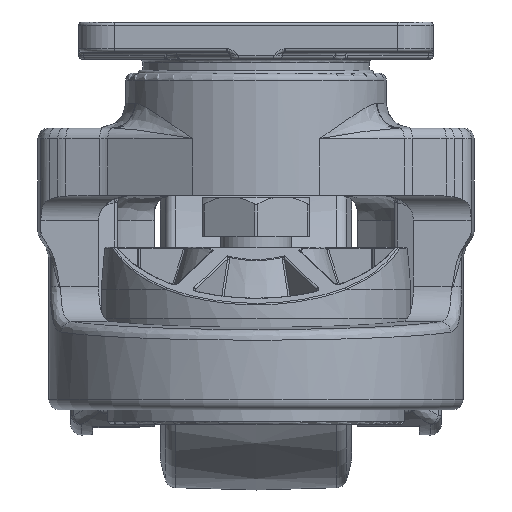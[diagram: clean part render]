
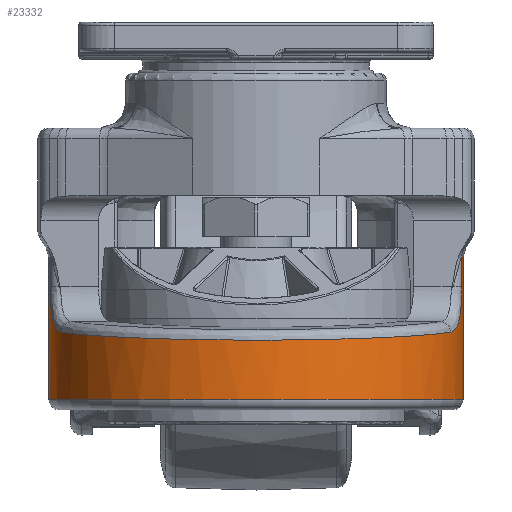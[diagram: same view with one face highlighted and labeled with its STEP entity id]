
A CAD part, left-side view. The second image highlights one B-rep face of the part: STEP entity #23332.
In plain terms, the highlighted cylindrical face has radius 58.5 mm (diameter 117 mm), a partial arc.
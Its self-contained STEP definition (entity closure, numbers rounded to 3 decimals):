
#21677=CARTESIAN_POINT('',(-37.701,-57.349,6.915));
#21678=VERTEX_POINT('',#21677);
#22481=CARTESIAN_POINT('',(-37.701,57.349,6.915));
#22482=VERTEX_POINT('',#22481);
#22529=CARTESIAN_POINT('',(-37.701,57.349,40.3));
#22530=VERTEX_POINT('',#22529);
#22538=CARTESIAN_POINT('',(-37.701,57.349,6.915));
#22539=DIRECTION('',(0.0,0.0,1.0));
#22540=VECTOR('',#22539,33.385);
#22541=LINE('',#22538,#22540);
#22542=EDGE_CURVE('',#22482,#22530,#22541,.T.);
#22763=CARTESIAN_POINT('',(-56.628,-58.033,6.915));
#22764=VERTEX_POINT('',#22763);
#22772=CARTESIAN_POINT('',(-49.25,0.0,6.915));
#22773=DIRECTION('',(0.0,0.0,1.));
#22774=DIRECTION('',(0.036,-0.999,0.0));
#22775=AXIS2_PLACEMENT_3D('',#22772,#22773,#22774);
#22776=CIRCLE('',#22775,58.5);
#22777=EDGE_CURVE('',#22764,#21678,#22776,.T.);
#22926=CARTESIAN_POINT('',(-56.628,58.033,6.915));
#22927=VERTEX_POINT('',#22926);
#22928=CARTESIAN_POINT('',(-49.25,0.0,6.915));
#22929=DIRECTION('',(0.0,0.0,1.0));
#22930=DIRECTION('',(0.036,0.999,0.0));
#22931=AXIS2_PLACEMENT_3D('',#22928,#22929,#22930);
#22932=CIRCLE('',#22931,58.5);
#22933=EDGE_CURVE('',#22482,#22927,#22932,.T.);
#23155=CARTESIAN_POINT('',(-56.628,58.033,-1.299));
#23156=VERTEX_POINT('',#23155);
#23164=CARTESIAN_POINT('',(-69.485,54.889,-14.275));
#23165=VERTEX_POINT('',#23164);
#23166=CARTESIAN_POINT('',(-56.628,58.033,-1.299));
#23167=CARTESIAN_POINT('',(-56.628,58.033,-3.222));
#23168=CARTESIAN_POINT('',(-57.094,57.978,-5.156));
#23169=CARTESIAN_POINT('',(-57.969,57.847,-6.902));
#23170=CARTESIAN_POINT('',(-58.221,57.809,-7.405));
#23171=CARTESIAN_POINT('',(-58.506,57.764,-7.892));
#23172=CARTESIAN_POINT('',(-58.824,57.711,-8.358));
#23173=CARTESIAN_POINT('',(-59.966,57.522,-10.034));
#23174=CARTESIAN_POINT('',(-61.512,57.229,-11.44));
#23175=CARTESIAN_POINT('',(-63.281,56.792,-12.447));
#23176=CARTESIAN_POINT('',(-64.458,56.502,-13.117));
#23177=CARTESIAN_POINT('',(-65.722,56.15,-13.608));
#23178=CARTESIAN_POINT('',(-67.027,55.734,-13.916));
#23179=CARTESIAN_POINT('',(-67.842,55.473,-14.108));
#23180=CARTESIAN_POINT('',(-68.669,55.19,-14.227));
#23181=CARTESIAN_POINT('',(-69.485,54.889,-14.275));
#23182=B_SPLINE_CURVE_WITH_KNOTS('',3,(#23166,#23167,#23168,#23169,#23170,#23171,#23172,#23173,#23174,#23175,#23176,#23177,#23178,#23179,#23180,#23181),.UNSPECIFIED.,.F.,.U.,(4,3,3,3,3,4),(0.0,5.768,7.427,13.388,17.355,19.834),.UNSPECIFIED.);
#23183=EDGE_CURVE('',#23156,#23165,#23182,.T.);
#23225=CARTESIAN_POINT('',(-56.628,58.033,6.915));
#23226=DIRECTION('',(0.0,0.0,-1.0));
#23227=VECTOR('',#23226,8.215);
#23228=LINE('',#23225,#23227);
#23229=EDGE_CURVE('',#22927,#23156,#23228,.T.);
#23235=CARTESIAN_POINT('',(-49.25,0.0,3.55));
#23236=DIRECTION('',(0.0,0.0,1.0));
#23237=DIRECTION('',(-1.0,0.0,0.0));
#23238=AXIS2_PLACEMENT_3D('',#23235,#23236,#23237);
#23239=CYLINDRICAL_SURFACE('',#23238,58.5);
#23240=ORIENTED_EDGE('',*,*,#22777,.F.);
#23241=CARTESIAN_POINT('',(-56.628,-58.033,-1.299));
#23242=VERTEX_POINT('',#23241);
#23243=CARTESIAN_POINT('',(-56.628,-58.033,-1.299));
#23244=DIRECTION('',(0.0,0.0,1.0));
#23245=VECTOR('',#23244,8.215);
#23246=LINE('',#23243,#23245);
#23247=EDGE_CURVE('',#23242,#22764,#23246,.T.);
#23248=ORIENTED_EDGE('',*,*,#23247,.F.);
#23249=CARTESIAN_POINT('',(-69.485,-54.889,-14.275));
#23250=VERTEX_POINT('',#23249);
#23251=CARTESIAN_POINT('',(-69.485,-54.889,-14.275));
#23252=CARTESIAN_POINT('',(-68.669,-55.19,-14.227));
#23253=CARTESIAN_POINT('',(-67.842,-55.473,-14.108));
#23254=CARTESIAN_POINT('',(-67.027,-55.734,-13.916));
#23255=CARTESIAN_POINT('',(-65.722,-56.15,-13.608));
#23256=CARTESIAN_POINT('',(-64.458,-56.502,-13.117));
#23257=CARTESIAN_POINT('',(-63.281,-56.792,-12.447));
#23258=CARTESIAN_POINT('',(-61.512,-57.229,-11.44));
#23259=CARTESIAN_POINT('',(-59.966,-57.522,-10.034));
#23260=CARTESIAN_POINT('',(-58.824,-57.711,-8.358));
#23261=CARTESIAN_POINT('',(-57.719,-57.895,-6.737));
#23262=CARTESIAN_POINT('',(-57.006,-57.984,-4.87));
#23263=CARTESIAN_POINT('',(-56.743,-58.018,-2.957));
#23264=CARTESIAN_POINT('',(-56.667,-58.028,-2.407));
#23265=CARTESIAN_POINT('',(-56.628,-58.033,-1.853));
#23266=CARTESIAN_POINT('',(-56.628,-58.033,-1.299));
#23267=B_SPLINE_CURVE_WITH_KNOTS('',3,(#23251,#23252,#23253,#23254,#23255,#23256,#23257,#23258,#23259,#23260,#23261,#23262,#23263,#23264,#23265,#23266),.UNSPECIFIED.,.F.,.U.,(4,3,3,3,3,4),(0.,2.479,6.446,12.407,18.174,19.834),.UNSPECIFIED.);
#23268=EDGE_CURVE('',#23250,#23242,#23267,.T.);
#23269=ORIENTED_EDGE('',*,*,#23268,.F.);
#23270=CARTESIAN_POINT('',(-49.25,0.0,-13.087));
#23271=DIRECTION('',(-0.059,0.0,0.998));
#23272=DIRECTION('',(-0.998,0.0,-0.059));
#23273=AXIS2_PLACEMENT_3D('',#23270,#23271,#23272);
#23274=ELLIPSE('',#23273,58.601,58.5);
#23275=EDGE_CURVE('',#23165,#23250,#23274,.T.);
#23276=ORIENTED_EDGE('',*,*,#23275,.F.);
#23277=ORIENTED_EDGE('',*,*,#23183,.F.);
#23278=ORIENTED_EDGE('',*,*,#23229,.F.);
#23279=ORIENTED_EDGE('',*,*,#22933,.F.);
#23280=ORIENTED_EDGE('',*,*,#22542,.T.);
#23281=CARTESIAN_POINT('',(-17.578,49.185,40.3));
#23282=VERTEX_POINT('',#23281);
#23283=CARTESIAN_POINT('',(-49.25,0.0,40.3));
#23284=DIRECTION('',(0.0,0.0,1.0));
#23285=DIRECTION('',(0.376,0.927,0.0));
#23286=AXIS2_PLACEMENT_3D('',#23283,#23284,#23285);
#23287=CIRCLE('',#23286,58.5);
#23288=EDGE_CURVE('',#23282,#22530,#23287,.T.);
#23289=ORIENTED_EDGE('',*,*,#23288,.F.);
#23290=CARTESIAN_POINT('',(-17.578,49.185,-33.2));
#23291=VERTEX_POINT('',#23290);
#23292=CARTESIAN_POINT('',(-17.578,49.185,-33.2));
#23293=DIRECTION('',(0.0,0.0,1.0));
#23294=VECTOR('',#23293,73.5);
#23295=LINE('',#23292,#23294);
#23296=EDGE_CURVE('',#23291,#23282,#23295,.T.);
#23297=ORIENTED_EDGE('',*,*,#23296,.F.);
#23298=CARTESIAN_POINT('',(-17.578,-49.185,-33.2));
#23299=VERTEX_POINT('',#23298);
#23300=CARTESIAN_POINT('',(-49.25,0.0,-33.2));
#23301=DIRECTION('',(0.0,0.0,-1.0));
#23302=DIRECTION('',(-1.0,0.0,0.0));
#23303=AXIS2_PLACEMENT_3D('',#23300,#23301,#23302);
#23304=CIRCLE('',#23303,58.5);
#23305=EDGE_CURVE('',#23299,#23291,#23304,.T.);
#23306=ORIENTED_EDGE('',*,*,#23305,.F.);
#23307=CARTESIAN_POINT('',(-17.578,-49.185,40.3));
#23308=VERTEX_POINT('',#23307);
#23309=CARTESIAN_POINT('',(-17.578,-49.185,40.3));
#23310=DIRECTION('',(0.0,0.0,-1.0));
#23311=VECTOR('',#23310,73.5);
#23312=LINE('',#23309,#23311);
#23313=EDGE_CURVE('',#23308,#23299,#23312,.T.);
#23314=ORIENTED_EDGE('',*,*,#23313,.F.);
#23315=CARTESIAN_POINT('',(-37.701,-57.349,40.3));
#23316=VERTEX_POINT('',#23315);
#23317=CARTESIAN_POINT('',(-49.25,0.0,40.3));
#23318=DIRECTION('',(0.0,0.0,1.));
#23319=DIRECTION('',(0.376,-0.927,0.0));
#23320=AXIS2_PLACEMENT_3D('',#23317,#23318,#23319);
#23321=CIRCLE('',#23320,58.5);
#23322=EDGE_CURVE('',#23316,#23308,#23321,.T.);
#23323=ORIENTED_EDGE('',*,*,#23322,.F.);
#23324=CARTESIAN_POINT('',(-37.701,-57.349,40.3));
#23325=DIRECTION('',(0.0,0.0,-1.0));
#23326=VECTOR('',#23325,33.385);
#23327=LINE('',#23324,#23326);
#23328=EDGE_CURVE('',#23316,#21678,#23327,.T.);
#23329=ORIENTED_EDGE('',*,*,#23328,.T.);
#23330=EDGE_LOOP('',(#23240,#23248,#23269,#23276,#23277,#23278,#23279,#23280,#23289,#23297,#23306,#23314,#23323,#23329));
#23331=FACE_OUTER_BOUND('',#23330,.T.);
#23332=ADVANCED_FACE('',(#23331),#23239,.T.);
